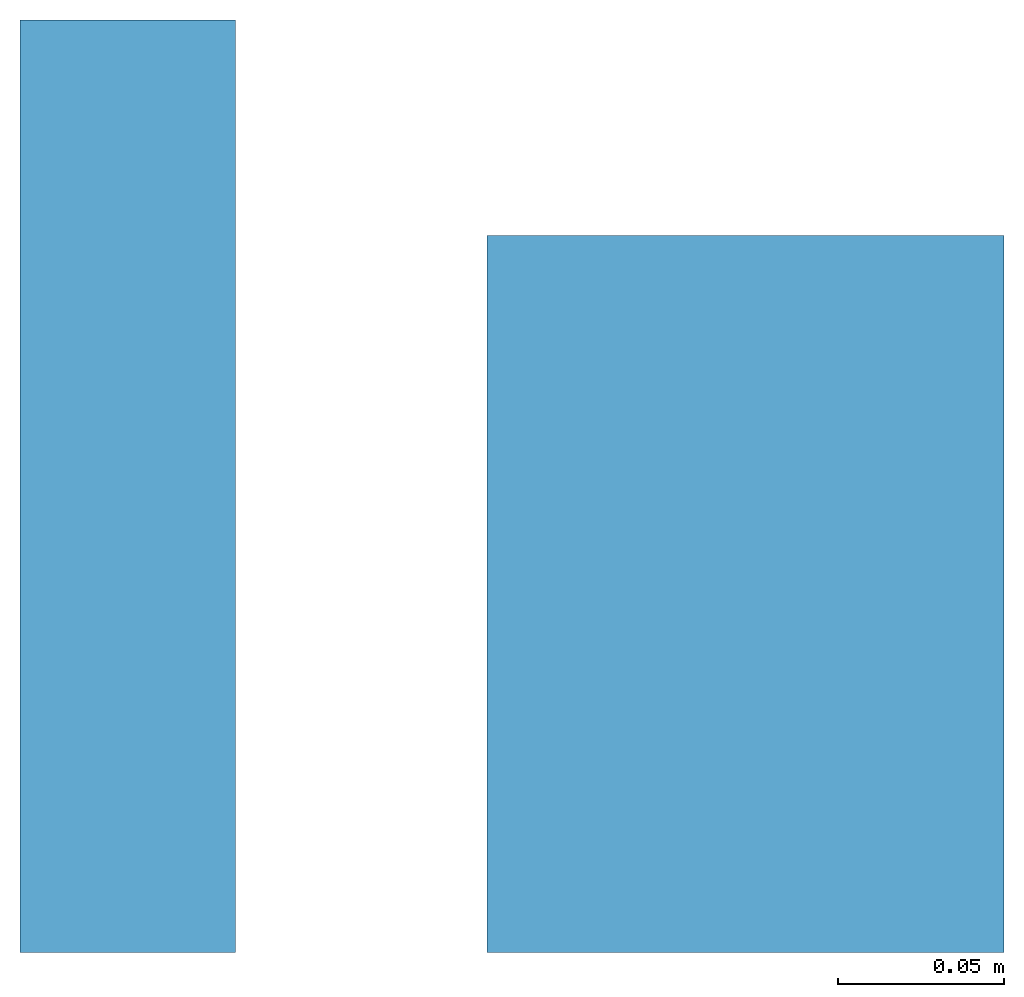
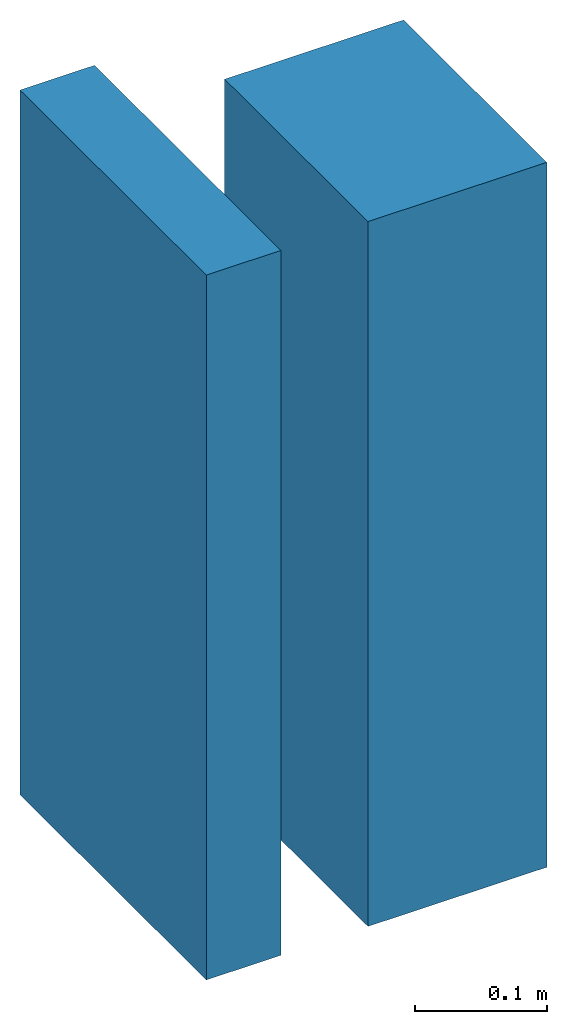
# One storey: 2 walls.
"""IFC2X3 building model written with IfcOpenShell, lengths in millimetres."""

import ifcopenshell
import ifcopenshell.guid

model = None  # the IFC model being written
_history = None  # IfcOwnerHistory: only IFC2X3 demands one
_inside = {}  # id of a spatial element -> (the spatial element, [elements in it])
_under = {}  # id of a project, library or spatial element -> (it, [spatial elements below it])
_declared = {}  # id of a project -> (the project, [libraries it declares])
_typed = {}  # id of a type object -> (the type object, [elements of that type])
_made_of = {}  # id of a material, layer set ... -> (it, [elements and type objects made of it])


def new_model(schema):
    """Start an empty IFC model of exactly this schema.

    Asked for "IFC4X3", IfcOpenShell would pick the latest addendum, in which some entities
    have other attributes; the version numbers below select the first issue.
    IFC2X3 requires an IfcOwnerHistory on every rooted entity: one is made here for all.
    """
    global model, _history
    if schema == "IFC4X3":
        model = ifcopenshell.file(schema_version=(4, 3, 0, 0))
    else:
        model = ifcopenshell.file(schema=schema)
    _inside.clear()
    _under.clear()
    _declared.clear()
    _typed.clear()
    _made_of.clear()
    _history = None
    if model.schema == "IFC2X3":
        org = make("IfcOrganization", Name="unknown")
        user = make(
            "IfcPersonAndOrganization",
            ThePerson=make("IfcPerson", FamilyName="unknown"),
            TheOrganization=org,
        )
        app = make(
            "IfcApplication",
            ApplicationDeveloper=org,
            Version="unknown",
            ApplicationFullName="unknown",
            ApplicationIdentifier="unknown",
        )
        _history = make(
            "IfcOwnerHistory",
            OwningUser=user,
            OwningApplication=app,
            ChangeAction="ADDED",
            CreationDate=0,
        )
    return model


def make(cls, **values):
    """One entity of the class cls with the attributes given. An attribute that is None is left unset."""
    return model.create_entity(
        cls, **{name: value for name, value in values.items() if value is not None}
    )


def entity(cls, *values):
    """Any entity or typed value of the class cls, its attributes in the order of the schema. None: left unset."""
    e = model.create_entity(cls)
    for i, value in enumerate(values):
        if value is not None:
            e[i] = value
    return e


def rooted(cls, **values):
    """An entity with a GlobalId (a new one), such as an element, a storey or a relation."""
    return make(cls, GlobalId=ifcopenshell.guid.new(), OwnerHistory=_history, **values)


def si_unit(unit_type, name, prefix=None):
    """IfcSIUnit, for example si_unit("LENGTHUNIT", "METRE", prefix="MILLI")."""
    return make("IfcSIUnit", UnitType=unit_type, Prefix=prefix, Name=name)


def converted_unit(unit_type, name, factor, base, dimensions=None, offset=None):
    """IfcConversionBasedUnit, such as the inch: factor (a typed value) times the base unit."""
    return make(
        "IfcConversionBasedUnit"
        if offset is None
        else "IfcConversionBasedUnitWithOffset",
        ConversionOffset=offset,
        Dimensions=None
        if dimensions is None
        else entity("IfcDimensionalExponents", *dimensions),
        UnitType=unit_type,
        Name=name,
        ConversionFactor=make(
            "IfcMeasureWithUnit", ValueComponent=factor, UnitComponent=base
        ),
    )


def derived_unit(unit_type, elements):
    """IfcDerivedUnit: a product of units, each with its exponent."""
    return make(
        "IfcDerivedUnit",
        Elements=[
            make("IfcDerivedUnitElement", Unit=unit, Exponent=power)
            for unit, power in elements
        ],
        UnitType=unit_type,
    )


def assignment(units):
    """IfcUnitAssignment: the units of a project."""
    return None if units is None else make("IfcUnitAssignment", Units=units)


def point(xyz):
    """IfcCartesianPoint."""
    return None if xyz is None else make("IfcCartesianPoint", Coordinates=xyz)


def direction(xyz):
    """IfcDirection."""
    return None if xyz is None else make("IfcDirection", DirectionRatios=xyz)


def frame(location, z_axis=None, x_axis=None):
    """IfcAxis2Placement3D, a coordinate frame: its origin and axes. An axis left out is left unset."""
    return make(
        "IfcAxis2Placement3D",
        Location=point(location),
        Axis=direction(z_axis),
        RefDirection=direction(x_axis),
    )


def origin():
    """The frame at (0, 0, 0) with its axes left unset."""
    return frame((0.0, 0.0, 0.0))


def origin_with_axes():
    """The frame at (0, 0, 0) with the z axis (0, 0, 1) and the x axis (1, 0, 0) written out."""
    return frame((0.0, 0.0, 0.0), z_axis=(0.0, 0.0, 1.0), x_axis=(1.0, 0.0, 0.0))


def place(relative_to, where):
    """IfcLocalPlacement: puts the frame where relative to a parent placement (None: the world)."""
    return make(
        "IfcLocalPlacement", PlacementRelTo=relative_to, RelativePlacement=where
    )


def context(
    kind, dimensions, precision=None, world=None, true_north=None, identifier=None
):
    """IfcGeometricRepresentationContext, for example the 3D "Model" context."""
    return make(
        "IfcGeometricRepresentationContext",
        ContextIdentifier=identifier,
        ContextType=kind,
        CoordinateSpaceDimension=dimensions,
        Precision=precision,
        WorldCoordinateSystem=world,
        TrueNorth=true_north,
    )


def subcontext(parent, identifier, kind, view, scale=None):
    """IfcGeometricRepresentationSubContext, for example "Body" below "Model"."""
    return make(
        "IfcGeometricRepresentationSubContext",
        ContextIdentifier=identifier,
        ContextType=kind,
        ParentContext=parent,
        TargetScale=scale,
        TargetView=view,
    )


def project(units=None, contexts=None):
    """IfcProject with its units and contexts."""
    return rooted(
        "IfcProject",
        Name="project",
        RepresentationContexts=contexts,
        UnitsInContext=assignment(units),
    )


def spatial(cls, under=None, at=None, **own):
    """A site, building, storey or space (cls), placed at a placement, below another one or the project."""
    s = rooted(cls, ObjectPlacement=at, **own)
    if under is not None:
        _under.setdefault(under.id(), (under, []))[1].append(s)
    return s


def faces_of(points, faces, orient=None, outer=None):
    """IfcFace entities. A face is a list of loops; a loop is a list of indices into points, from 0.

    orient and outer hold one flag for each loop. By default every Orientation is true, the
    first loop of a face is its IfcFaceOuterBound and the others are IfcFaceBound.
    """
    made = []
    for i, loops in enumerate(faces):
        bounds = []
        for j, loop in enumerate(loops):
            is_outer = j == 0 if outer is None else outer[i][j]
            bounds.append(
                make(
                    "IfcFaceOuterBound" if is_outer else "IfcFaceBound",
                    Bound=make("IfcPolyLoop", Polygon=[points[k] for k in loop]),
                    Orientation=True if orient is None else orient[i][j],
                )
            )
        made.append(make("IfcFace", Bounds=bounds))
    return made


def faceted_brep(points, faces, orient=None, outer=None, voids=None):
    """IfcFacetedBrep: a solid bounded by flat faces; with voids (closed shells), ...WithVoids."""
    shared = [point(p) for p in points]
    hull = make("IfcClosedShell", CfsFaces=faces_of(shared, faces, orient, outer))
    if voids is None:
        return make("IfcFacetedBrep", Outer=hull)
    return make(
        "IfcFacetedBrepWithVoids",
        Outer=hull,
        Voids=[
            make(cls, CfsFaces=faces_of(shared, fs, o, b)) for cls, fs, o, b in voids
        ],
    )


def shape(context_of_items, identifier, shape_type, items):
    """IfcShapeRepresentation: the items that make up one representation, for example the "Body"."""
    return make(
        "IfcShapeRepresentation",
        ContextOfItems=context_of_items,
        RepresentationIdentifier=identifier,
        RepresentationType=shape_type,
        Items=items,
    )


def material(Name=None, Category=None):
    """IfcMaterial."""
    return make("IfcMaterial", Name=Name, Category=Category)


def layer(
    of_material, thickness, ventilated=None, Name=None, Category=None, Priority=None
):
    """IfcMaterialLayer: one layer of a wall or slab, of a material (None: an air gap)."""
    return make(
        "IfcMaterialLayer",
        Material=of_material,
        LayerThickness=thickness,
        IsVentilated=ventilated,
        Name=Name,
        Category=Category,
        Priority=Priority,
    )


def layer_set(layers, Name=None):
    """IfcMaterialLayerSet."""
    return make("IfcMaterialLayerSet", MaterialLayers=layers, LayerSetName=Name)


def made_of(thing, what):
    """Note that an element or type object is made of a material, layer set ...; save() writes the relation."""
    if what is not None:
        _made_of.setdefault(what.id(), (what, []))[1].append(thing)
    return thing


def type_object(cls, material=None, **own):
    """A type object (cls), such as IfcWallType, which elements share."""
    return made_of(rooted(cls, **own), material)


def element(
    cls,
    number,
    at=None,
    inside=None,
    cuts=None,
    type_object=None,
    material=None,
    context=None,
    identifier="Body",
    shape_type=None,
    held_by="IfcProductDefinitionShape",
    body=None,
    shapes=None,
    **own,
):
    """One element of the class cls, such as IfcWall. Its Tag is "e" and its number.

    at: its placement. inside: the storey or other place that contains it. cuts: it is an
    opening in that element (IfcRelVoidsElement). A single representation is given by context,
    identifier, shape_type and body (its items); several are given by shapes. held_by: the class
    of the entity that holds the representations. save() writes the other relations.
    """
    e = rooted(cls, Tag="e%d" % number, ObjectPlacement=at, **own)
    if body is not None:
        shapes = [shape(context, identifier, shape_type, body)]
    if shapes is not None:
        e.Representation = make(held_by, Representations=shapes)
    if inside is not None:
        _inside.setdefault(inside.id(), (inside, []))[1].append(e)
    if cuts is not None:
        rooted(
            "IfcRelVoidsElement", RelatingBuildingElement=cuts, RelatedOpeningElement=e
        )
    if type_object is not None:
        _typed.setdefault(type_object.id(), (type_object, []))[1].append(e)
    return made_of(e, material)


def aggregate(whole, parts):
    """IfcRelAggregates: a whole, such as a stair, and the parts it consists of."""
    return rooted("IfcRelAggregates", RelatingObject=whole, RelatedObjects=parts)


def save(model, path):
    """Write the relations noted so far, then the file.

    IfcRelAggregates (storeys below a building ...), IfcRelContainedInSpatialStructure (elements
    in a storey), IfcRelDefinesByType, IfcRelAssociatesMaterial and IfcRelDeclares: one each for
    every whole, place, type object, material and project.
    """
    for whole, parts in _under.values():
        aggregate(whole, parts)
    for where, things in _inside.values():
        rooted(
            "IfcRelContainedInSpatialStructure",
            RelatedElements=things,
            RelatingStructure=where,
        )
    for kind, things in _typed.values():
        rooted("IfcRelDefinesByType", RelatedObjects=things, RelatingType=kind)
    for what, things in _made_of.values():
        rooted("IfcRelAssociatesMaterial", RelatedObjects=things, RelatingMaterial=what)
    for by, libraries in _declared.values():
        rooted("IfcRelDeclares", RelatingContext=by, RelatedDefinitions=libraries)
    model.write(path)


model = new_model("IFC2X3")

# Units and contexts
model_context = context("Model", 3, precision=0.01, world=origin(), true_north=direction((6.12303176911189e-17, 1.0)))
plan_context = context("Plan", 3, precision=1e-05, world=origin_with_axes())
body_context = subcontext(model_context, "Body", "Model", "MODEL_VIEW")
ifc_project = project(units=[converted_unit("PLANEANGLEUNIT", "DEGREE", entity("IfcPositiveLengthMeasure", 0.0174532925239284), si_unit("PLANEANGLEUNIT", "RADIAN"), dimensions=[0, 0, 0, 0, 0, 0, 0]), si_unit("AREAUNIT", "SQUARE_METRE"), si_unit("LENGTHUNIT", "METRE", prefix="MILLI"), si_unit("MASSUNIT", "GRAM", prefix="KILO"), si_unit("POWERUNIT", "WATT"), si_unit("PRESSUREUNIT", "PASCAL"), si_unit("FORCEUNIT", "NEWTON", prefix="KILO"), si_unit("ELECTRICVOLTAGEUNIT", "VOLT"), si_unit("ELECTRICCURRENTUNIT", "AMPERE"), si_unit("THERMODYNAMICTEMPERATUREUNIT", "DEGREE_CELSIUS"), si_unit("TIMEUNIT", "SECOND"), si_unit("VOLUMEUNIT", "CUBIC_METRE"), derived_unit("LINEARVELOCITYUNIT", [(si_unit("LENGTHUNIT", "METRE"), 1), (si_unit("TIMEUNIT", "SECOND"), -1)]), derived_unit("VOLUMETRICFLOWRATEUNIT", [(si_unit("VOLUMEUNIT", "CUBIC_METRE"), 1), (si_unit("TIMEUNIT", "SECOND"), -1)]), derived_unit("THERMALTRANSMITTANCEUNIT", [(si_unit("POWERUNIT", "WATT"), 1), (si_unit("THERMODYNAMICTEMPERATUREUNIT", "KELVIN"), -1), (si_unit("AREAUNIT", "SQUARE_METRE"), -1)]), derived_unit("SOUNDPRESSUREUNIT", [(si_unit("PRESSUREUNIT", "PASCAL"), 1)])], contexts=[model_context, plan_context])

# Site, building, storey
site_placement = place(None, frame((2314154.5009392, 1029894.10887124, 0.0), z_axis=(0.0, 0.0, 1.0), x_axis=(1.0, 0.0, 0.0)))
site = spatial("IfcSite", under=ifc_project, at=site_placement, Name="Default", CompositionType="ELEMENT")
building_placement = place(site_placement, origin_with_axes())
building = spatial("IfcBuilding", under=site, at=building_placement, CompositionType="ELEMENT")
storey_placement = place(building_placement, frame((0.0, 0.0, 11535.0), z_axis=(0.0, 0.0, 1.0), x_axis=(1.0, 0.0, 0.0)))
storey = spatial("IfcBuildingStorey", under=building, at=storey_placement, Name="+11.535 - TC/PIR - E1", CompositionType="ELEMENT", Elevation=11535.0)

# Walls
ifc_material_1 = material(Name="TC-hvit malt")
ifc_layer_1 = layer(ifc_material_1, 2.0)
ifc_material_2 = material(Name="Værnes_Gipsplate")
ifc_layer_2 = layer(ifc_material_2, 13.0)
ifc_material_3 = material(Name="Værnes_Stålstender, uisolert")
ifc_layer_3 = layer(ifc_material_3, 50.0)
ifc_layer_set_1 = layer_set([ifc_layer_1, ifc_layer_2, ifc_layer_3], Name="Basic Wall:242_TC_1/50 GIPS")
wall_type_1 = type_object("IfcWallType", Name="Basic Wall:242_TC_1/50 GIPS", PredefinedType="STANDARD", material=ifc_layer_set_1)
wall_1_placement = place(storey_placement, frame((8835.83394735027, -8615.95140972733, -785.0), z_axis=(0.0, 0.0, 1.0), x_axis=(0.0, 1.0, 0.0)))
element("IfcWall", 1, at=wall_1_placement, inside=storey, type_object=wall_type_1, Name="Basic Wall:242_TC_1/50 GIPS", ObjectType="Basic Wall:242_TC_1/50 GIPS", context=body_context, shape_type="Brep", body=[
    faceted_brep([(281.499999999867, 32.5000000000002, 3620.0), (281.499999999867, -32.5000000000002, 3620.0), (281.499999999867, -32.5000000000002, 4270.0), (281.499999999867, 32.5000000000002, 4270.0), (0.0, 32.5000000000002, 3620.0), (0.0, 32.5000000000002, 4270.0), (0.0, -32.5000000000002, 3620.0), (0.0, -32.5000000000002, 4270.0)], [[[0, 1, 2, 3]], [[4, 0, 3, 5]], [[6, 4, 5, 7]], [[1, 6, 7, 2]], [[3, 2, 7, 5]], [[4, 6, 1, 0]]], orient=[[False], [False], [False], [False], [False], [False]]),
])
ifc_material_4 = material(Name="Værnes_Malt")
ifc_layer_4 = layer(ifc_material_4, 2.0)
ifc_layer_5 = layer(ifc_material_2, 13.0)
ifc_layer_6 = layer(ifc_material_2, 13.0)
ifc_material_5 = material(Name="Værnes_Stålstender")
ifc_layer_7 = layer(ifc_material_5, 100.0)
ifc_layer_8 = layer(ifc_material_2, 13.0)
ifc_layer_9 = layer(ifc_material_2, 13.0)
ifc_layer_10 = layer(ifc_material_4, 2.0)
ifc_layer_set_2 = layer_set([ifc_layer_4, ifc_layer_5, ifc_layer_6, ifc_layer_7, ifc_layer_8, ifc_layer_9, ifc_layer_10], Name="Basic Wall:242_TC_22/100 GIPS-GIPS")
wall_type_2 = type_object("IfcWallType", Name="Basic Wall:242_TC_22/100 GIPS-GIPS", PredefinedType="STANDARD", material=ifc_layer_set_2)
wall_2_placement = place(storey_placement, frame((9022.33394735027, -8399.45140972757, -785.0), z_axis=(0.0, 0.0, 1.0), x_axis=(0.0, -1.0, 0.0)))
element("IfcWall", 2, at=wall_2_placement, inside=storey, type_object=wall_type_2, Name="Basic Wall:242_TC_22/100 GIPS-GIPS", ObjectType="Basic Wall:242_TC_22/100 GIPS-GIPS", context=body_context, shape_type="Brep", body=[
    faceted_brep([(216.499999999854, 77.9999999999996, 3620.0), (216.499999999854, -77.9999999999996, 3620.0), (216.499999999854, -77.9999999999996, 4270.0), (216.499999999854, 77.9999999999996, 4270.0), (0.0, 77.9999999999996, 3620.0), (0.0, 77.9999999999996, 4270.0), (0.0, -77.9999999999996, 3620.0), (0.0, -77.9999999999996, 4270.0)], [[[0, 1, 2, 3]], [[4, 0, 3, 5]], [[6, 4, 5, 7]], [[1, 6, 7, 2]], [[3, 2, 7, 5]], [[4, 6, 1, 0]]], orient=[[False], [False], [False], [False], [False], [False]]),
])

save(model, "model.ifc")
